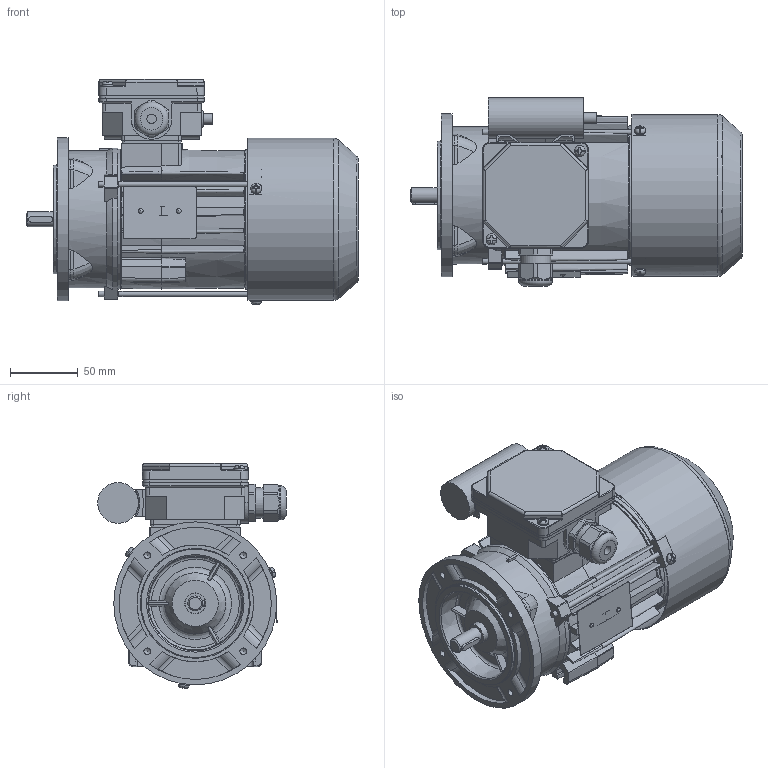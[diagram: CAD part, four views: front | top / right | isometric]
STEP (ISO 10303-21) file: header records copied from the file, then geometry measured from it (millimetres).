
FILE_DESCRIPTION(/* description */ ('Unknown'),/* implementation_level */ '2;1');
FILE_NAME(/* name */ '3SSIEK63-4B1',/* time_stamp */ '2024-06-17T11:27:12+02:00',/* author */ ('Unknown'),/* organization */ ('Unknown'),/* preprocessor_version */ 'ST-DEVELOPER v16.7',/* originating_system */ 'Solid Edge',/* authorisation */ 'Unknown');
FILE_SCHEMA (('AUTOMOTIVE_DESIGN { 1 0 10303 214 3 1 1 }','AUTOMOTIVE_DESIGN {1 0 10303 214 3 1 1}'));
Length unit declared in the file: millimetre
Products named in the file (1): Czêœæ15
Bounding box: 244.47 x 138.82 x 165.7 mm (x, y, z)
Volume: 618356.2 mm3; surface area: 359791.7 mm2
Topology: 2 solids, 2 shells, 1890 faces, 5369 edges, 3502 vertices
Faces by surface type: plane 954, cylinder 552, torus 133, bspline 115, cone 115, sphere 21
Full cylindrical faces by diameter (mm): 2 x1, 2.4 x2, 3 x1, 3.7 x7, 3.8 x1, 4 x8, 4.5 x5, 4.6 x1, 4.8 x2, 5 x6, 6.5 x1, 7 x4, 7.998 x1, 8 x6, 10.998 x1, 12.897 x1, 13.097 x1, 14.997 x2, 15.4 x2, 18.996 x2, 19.496 x1, 19.996 x1, 20.096 x1, 21.516 x4, 22.3 x1, 25 x1, 28 x2, 28.48 x4, 29.994 x1, 31 x2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
Entity records: 77374 total; most frequent: CARTESIAN_POINT 17256, ORIENTED_EDGE 10062, DIRECTION 9238, EDGE_CURVE 5031, AXIS2_PLACEMENT_3D 3405, VERTEX_POINT 3376, LINE 2428, VECTOR 2428
